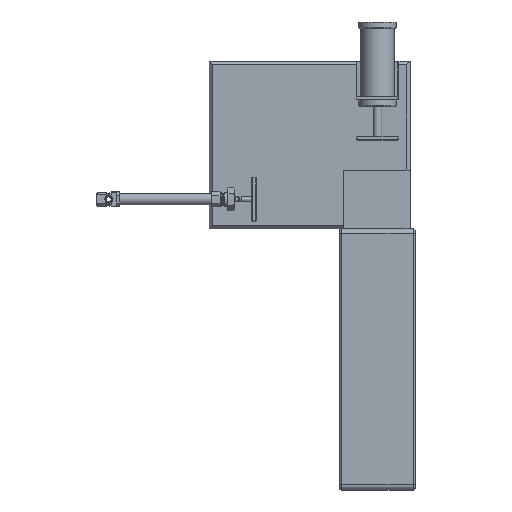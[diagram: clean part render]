
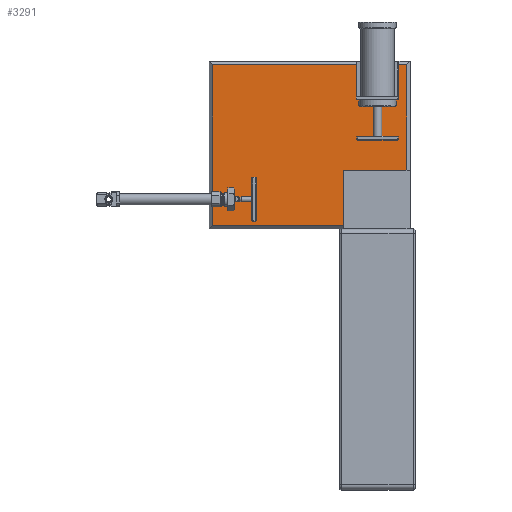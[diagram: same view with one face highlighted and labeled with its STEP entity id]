
A CAD part, top view. The second image highlights one B-rep face of the part: STEP entity #3291.
In plain terms, the highlighted planar face has unit normal (0, 0, 1).
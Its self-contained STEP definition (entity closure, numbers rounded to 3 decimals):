
#477=FACE_OUTER_BOUND('',#689,.T.);
#689=EDGE_LOOP('',(#2247,#2248,#2249,#2250));
#913=LINE('',#5242,#1194);
#917=LINE('',#5250,#1198);
#920=LINE('',#5256,#1201);
#924=LINE('',#5262,#1205);
#1194=VECTOR('',#4196,10.);
#1198=VECTOR('',#4202,10.);
#1201=VECTOR('',#4207,10.);
#1205=VECTOR('',#4213,10.);
#1475=VERTEX_POINT('',#5240);
#1476=VERTEX_POINT('',#5241);
#1479=VERTEX_POINT('',#5249);
#1481=VERTEX_POINT('',#5255);
#1760=EDGE_CURVE('',#1475,#1476,#913,.T.);
#1764=EDGE_CURVE('',#1476,#1479,#917,.T.);
#1767=EDGE_CURVE('',#1479,#1481,#920,.T.);
#1771=EDGE_CURVE('',#1481,#1475,#924,.T.);
#2247=ORIENTED_EDGE('',*,*,#1760,.F.);
#2248=ORIENTED_EDGE('',*,*,#1771,.F.);
#2249=ORIENTED_EDGE('',*,*,#1767,.F.);
#2250=ORIENTED_EDGE('',*,*,#1764,.F.);
#3155=PLANE('',#3815);
#3291=ADVANCED_FACE('',(#477),#3155,.T.);
#3815=AXIS2_PLACEMENT_3D('',#5273,#4223,#4224);
#4196=DIRECTION('',(0.,-1.,0.));
#4202=DIRECTION('',(-1.,0.,0.));
#4207=DIRECTION('',(0.,1.,0.));
#4213=DIRECTION('',(1.,0.,0.));
#4223=DIRECTION('center_axis',(0.,0.,
1.));
#4224=DIRECTION('ref_axis',(1.,0.,0.));
#5240=CARTESIAN_POINT('',(116.,96.,20.));
#5241=CARTESIAN_POINT('',(116.,-96.,20.));
#5242=CARTESIAN_POINT('',(116.,-50.,20.));
#5249=CARTESIAN_POINT('',(-116.,-96.,20.));
#5250=CARTESIAN_POINT('',(-60.,-96.,20.));
#5255=CARTESIAN_POINT('',(-116.,96.,20.));
#5256=CARTESIAN_POINT('',(-116.,50.,20.));
#5262=CARTESIAN_POINT('',(60.,96.,20.));
#5273=CARTESIAN_POINT('Origin',(0.,0.,
20.));
